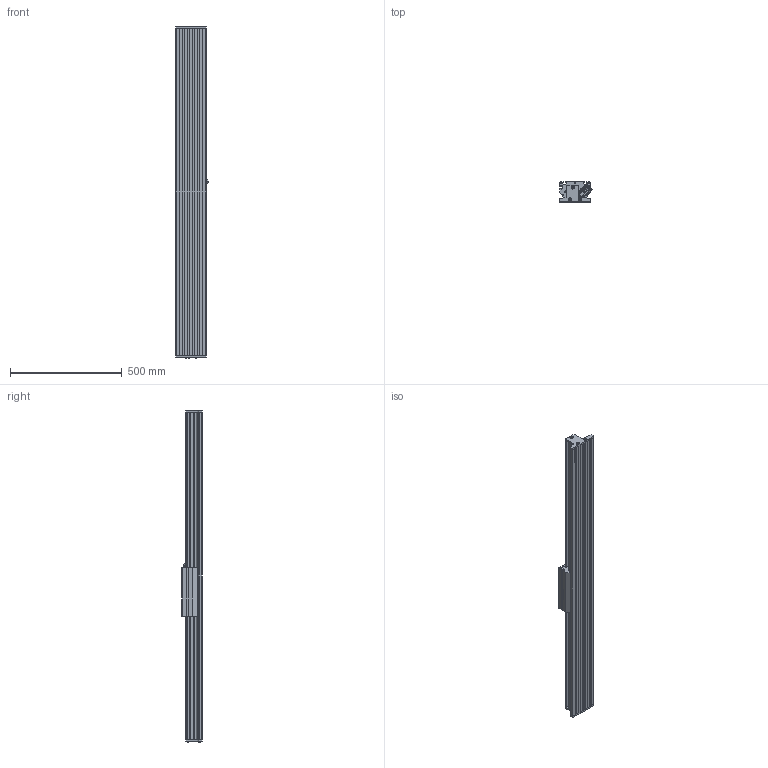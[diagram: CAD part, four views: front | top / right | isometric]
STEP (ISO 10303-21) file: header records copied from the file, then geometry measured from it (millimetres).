
FILE_DESCRIPTION (( 'STEP AP214' ), '1' );
FILE_NAME ('SINADRIVES Linear motor stage MLL20200XS-XX-1-0-ST-00-01476.STEP', '2015-07-06T09:08:05', ( 'Tecnico' ), ( '' ), 'SwSTEP 2.0', 'SolidWorks 2009', '' );
FILE_SCHEMA (( 'AUTOMOTIVE_DESIGN' ));
Length unit declared in the file: millimetre
Products named in the file (7): SINADRIVES PROFILE MLL2XXXX-1460; SINADRIVES CARRIAGE MLL20200XS-1; CARRIAGE MLL20200; Connector power+signal Y-tec 45; SINADRIVES ENDBLOCK MLL2; SINADRIVES ENDBLOCK MLL2-2; SINADRIVES Linear motor stage MLL20200XS-XX-1-0-ST-00-01476
Assembly tree (6 placements, depth 3):
  SINADRIVES Linear motor stage MLL20200XS-XX-1-0-ST-00-01476
    SINADRIVES ENDBLOCK MLL2
    SINADRIVES PROFILE MLL2XXXX-1460
    SINADRIVES CARRIAGE MLL20200XS-1
      CARRIAGE MLL20200
      Connector power+signal Y-tec 45
    SINADRIVES ENDBLOCK MLL2-2
Bounding box: 144.43 x 91 x 1484.8 mm (x, y, z)
Volume: 7080656.8 mm3; surface area: 1236772.6 mm2
Topology: 2 solids, 42 shells, 950 faces, 2640 edges, 1730 vertices
Faces by surface type: plane 445, cylinder 302, bspline 79, cone 70, torus 42, sphere 12
Entity records: 40587 total; most frequent: CARTESIAN_POINT 8656, ORIENTED_EDGE 5024, DIRECTION 4947, EDGE_CURVE 2622, AXIS2_PLACEMENT_3D 1781, VERTEX_POINT 1730, LINE 1385, VECTOR 1385
